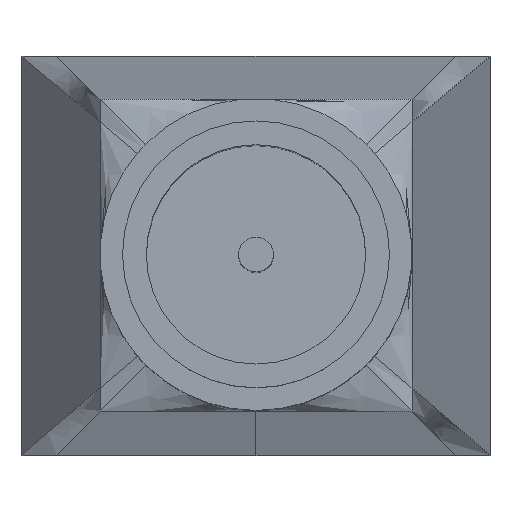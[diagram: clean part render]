
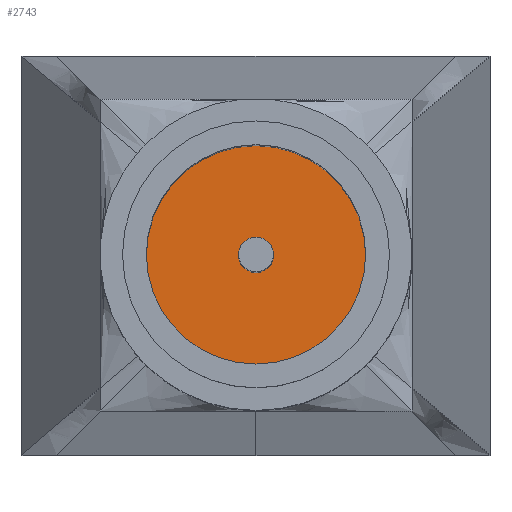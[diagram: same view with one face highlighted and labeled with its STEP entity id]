
A CAD part, top view. The second image highlights one B-rep face of the part: STEP entity #2743.
In plain terms, the highlighted planar face has unit normal (0, 0, 1).
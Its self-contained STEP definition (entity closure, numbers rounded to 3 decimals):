
#2678 = CYLINDRICAL_SURFACE('',#2679,3.163);
#2679 = AXIS2_PLACEMENT_3D('',#2680,#2681,#2682);
#2680 = CARTESIAN_POINT('',(0.,0.,30.3));
#2681 = DIRECTION('',(0.,0.,1.));
#2682 = DIRECTION('',(1.,0.,0.));
#2693 = VERTEX_POINT('',#2694);
#2694 = CARTESIAN_POINT('',(3.163,0.,15.3));
#2715 = EDGE_CURVE('',#2693,#2693,#2716,.T.);
#2716 = SURFACE_CURVE('',#2717,(#2722,#2729),.PCURVE_S1.);
#2717 = CIRCLE('',#2718,3.163);
#2718 = AXIS2_PLACEMENT_3D('',#2719,#2720,#2721);
#2719 = CARTESIAN_POINT('',(0.,0.,15.3));
#2720 = DIRECTION('',(0.,0.,1.));
#2721 = DIRECTION('',(1.,0.,0.));
#2722 = PCURVE('',#2678,#2723);
#2723 = DEFINITIONAL_REPRESENTATION('',(#2724),#2728);
#2724 = LINE('',#2725,#2726);
#2725 = CARTESIAN_POINT('',(0.,-15.));
#2726 = VECTOR('',#2727,1.);
#2727 = DIRECTION('',(1.,0.));
#2728 = ( GEOMETRIC_REPRESENTATION_CONTEXT(2) 
PARAMETRIC_REPRESENTATION_CONTEXT() REPRESENTATION_CONTEXT('2D SPACE',''
  ) );
#2729 = PCURVE('',#2730,#2735);
#2730 = PLANE('',#2731);
#2731 = AXIS2_PLACEMENT_3D('',#2732,#2733,#2734);
#2732 = CARTESIAN_POINT('',(0.,0.,15.3));
#2733 = DIRECTION('',(0.,0.,1.));
#2734 = DIRECTION('',(1.,0.,0.));
#2735 = DEFINITIONAL_REPRESENTATION('',(#2736),#2740);
#2736 = CIRCLE('',#2737,3.163);
#2737 = AXIS2_PLACEMENT_2D('',#2738,#2739);
#2738 = CARTESIAN_POINT('',(0.,0.));
#2739 = DIRECTION('',(1.,0.));
#2740 = ( GEOMETRIC_REPRESENTATION_CONTEXT(2) 
PARAMETRIC_REPRESENTATION_CONTEXT() REPRESENTATION_CONTEXT('2D SPACE',''
  ) );
#2743 = ADVANCED_FACE('',(#2744,#2747),#2730,.T.);
#2744 = FACE_BOUND('',#2745,.T.);
#2745 = EDGE_LOOP('',(#2746));
#2746 = ORIENTED_EDGE('',*,*,#2715,.T.);
#2747 = FACE_BOUND('',#2748,.T.);
#2748 = EDGE_LOOP('',(#2749));
#2749 = ORIENTED_EDGE('',*,*,#2750,.F.);
#2750 = EDGE_CURVE('',#2751,#2751,#2753,.T.);
#2751 = VERTEX_POINT('',#2752);
#2752 = CARTESIAN_POINT('',(0.5,0.,15.3));
#2753 = SURFACE_CURVE('',#2754,(#2759,#2766),.PCURVE_S1.);
#2754 = CIRCLE('',#2755,0.5);
#2755 = AXIS2_PLACEMENT_3D('',#2756,#2757,#2758);
#2756 = CARTESIAN_POINT('',(0.,0.,15.3));
#2757 = DIRECTION('',(0.,0.,1.));
#2758 = DIRECTION('',(1.,0.,0.));
#2759 = PCURVE('',#2730,#2760);
#2760 = DEFINITIONAL_REPRESENTATION('',(#2761),#2765);
#2761 = CIRCLE('',#2762,0.5);
#2762 = AXIS2_PLACEMENT_2D('',#2763,#2764);
#2763 = CARTESIAN_POINT('',(0.,0.));
#2764 = DIRECTION('',(1.,0.));
#2765 = ( GEOMETRIC_REPRESENTATION_CONTEXT(2) 
PARAMETRIC_REPRESENTATION_CONTEXT() REPRESENTATION_CONTEXT('2D SPACE',''
  ) );
#2766 = PCURVE('',#2767,#2772);
#2767 = CYLINDRICAL_SURFACE('',#2768,0.5);
#2768 = AXIS2_PLACEMENT_3D('',#2769,#2770,#2771);
#2769 = CARTESIAN_POINT('',(0.,0.,15.3));
#2770 = DIRECTION('',(0.,0.,-1.));
#2771 = DIRECTION('',(1.,0.,0.));
#2772 = DEFINITIONAL_REPRESENTATION('',(#2773),#2777);
#2773 = LINE('',#2774,#2775);
#2774 = CARTESIAN_POINT('',(-0.,0.));
#2775 = VECTOR('',#2776,1.);
#2776 = DIRECTION('',(-1.,0.));
#2777 = ( GEOMETRIC_REPRESENTATION_CONTEXT(2) 
PARAMETRIC_REPRESENTATION_CONTEXT() REPRESENTATION_CONTEXT('2D SPACE',''
  ) );
